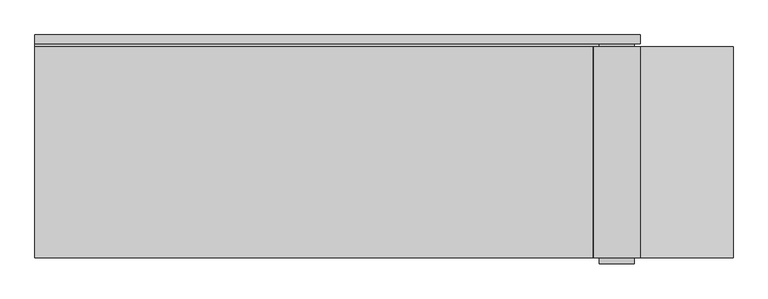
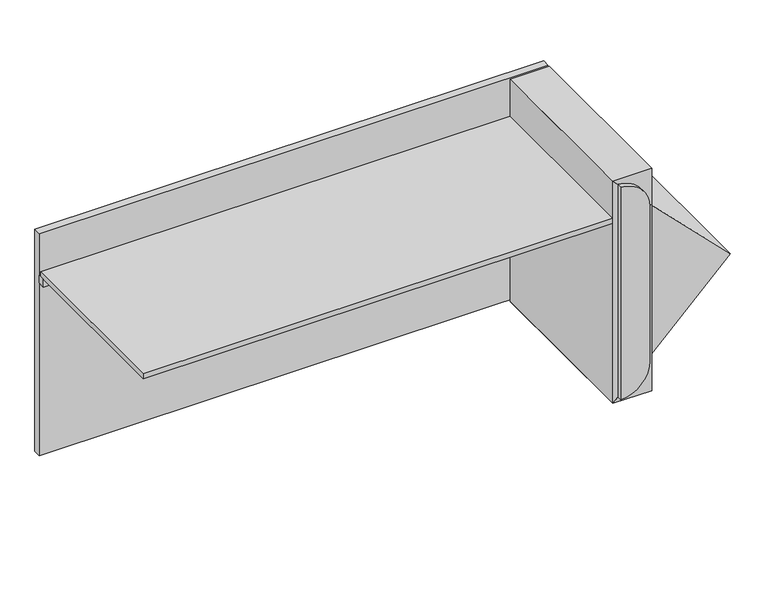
"""IFC4 building model written with IfcOpenShell, lengths in millimetres: proxy geometry, BASYS^OFFICE 7_36x78 DESK-PARTS SOLID."""

from ifc_helpers import new_model, si_unit, point, frame, frame_2d, origin, place, context, project, spatial, polyline, circle_curve, trimmed, segment, composite_curve, outline, extrude, source, transform, mapped, element, save


def generic_models_5ed4adca(model_context):
    return source(origin(), model_context, "Body", "SweptSolid", [
        extrude(outline(composite_curve([segment(polyline([(-914.4, 1828.8), (-914.4, 1981.2), (0.0, 1981.2), (0.0, 1828.8), (-19.2266619, 1848.0266619)]), True, "CONTINUOUS"), segment(trimmed(circle_curve(frame_2d((-139.7, 1841.5)), 120.65), [point((-19.2266619, 1848.0266619))], [point((-139.7, 1962.15))], True, "CARTESIAN"), True, "CONTINUOUS"), segment(polyline([(-139.7, 1962.15), (-774.7, 1962.15)]), True, "CONTINUOUS"), segment(trimmed(circle_curve(frame_2d((-774.7, 1841.5)), 120.65), [point((-774.7, 1962.15))], [point((-895.1733381, 1848.0266619))], True, "CARTESIAN"), True, "CONTINUOUS"), segment(polyline([(-895.1733381, 1848.0266619), (-914.4, 1828.8)]), True, "CONTINUOUS")], self_intersect=False)), frame((0.0, -701.675, 0.0), z_axis=(0.0, 1.0, 0.0), x_axis=(0.0, 0.0, 1.0)), (0.0, 0.0, 1.0), 692.15),
        extrude(outline(polyline([(-914.4, 1828.8), (-457.2, 2286.0), (0.0, 1828.8), (-914.4, 1828.8)])), frame((0.0, -701.675, 0.0), z_axis=(0.0, 1.0, 0.0), x_axis=(0.0, 0.0, 1.0)), (0.0, 0.0, 1.0), 692.15),
        extrude(outline(polyline([(1848.0266619, 0.0), (1848.0266619, -28.575), (0.0, -28.575), (0.0, 0.0), (1848.0266619, 0.0)])), frame((0.0, 0.0, -203.2), z_axis=(0.0, 0.0, 1.0), x_axis=(1.0, 0.0, 0.0)), (0.0, 0.0, 1.0), 31.75),
        extrude(outline(polyline([(1828.8, -9.525), (1828.8, -701.675), (0.0, -701.675), (0.0, -9.525), (1828.8, -9.525)])), frame((0.0, 0.0, -171.45), z_axis=(0.0, 0.0, 1.0), x_axis=(1.0, 0.0, 0.0)), (0.0, 0.0, 1.0), 19.05),
        extrude(outline(composite_curve([segment(polyline([(-774.7, 1962.15), (-139.7, 1962.15)]), True, "CONTINUOUS"), segment(trimmed(circle_curve(frame_2d((-139.7, 1841.5)), 120.65), [point((-139.7, 1962.15))], [point((-19.2266619, 1848.0266619))], False, "CARTESIAN"), True, "CONTINUOUS"), segment(polyline([(-19.2266619, 1848.0266619), (-895.1733381, 1848.0266619)]), True, "CONTINUOUS"), segment(trimmed(circle_curve(frame_2d((-774.7, 1841.5)), 120.65), [point((-895.1733381, 1848.0266619))], [point((-774.7, 1962.15))], False, "CARTESIAN"), True, "CONTINUOUS")], self_intersect=False)), frame((0.0, -31.75, 0.0), z_axis=(0.0, 1.0, 0.0), x_axis=(0.0, 0.0, 1.0)), (0.0, 0.0, 1.0), 31.75),
        extrude(outline(polyline([(1981.2, 0.0), (0.0, 0.0), (0.0, 28.575), (1981.2, 28.575), (1981.2, 0.0)])), frame((0.0, 0.0, -914.4), z_axis=(0.0, 0.0, 1.0), x_axis=(1.0, 0.0, 0.0)), (0.0, 0.0, 1.0), 914.4),
        extrude(outline(composite_curve([segment(polyline([(-19.2266619, 1848.0266619), (-895.1733381, 1848.0266619)]), True, "CONTINUOUS"), segment(trimmed(circle_curve(frame_2d((-774.7, 1841.5)), 120.65), [point((-895.1733381, 1848.0266619))], [point((-774.7, 1962.15))], False, "CARTESIAN"), True, "CONTINUOUS"), segment(polyline([(-774.7, 1962.15), (-139.7, 1962.15)]), True, "CONTINUOUS"), segment(trimmed(circle_curve(frame_2d((-139.7, 1841.5)), 120.65), [point((-139.7, 1962.15))], [point((-19.2266619, 1848.0266619))], False, "CARTESIAN"), True, "CONTINUOUS")], self_intersect=False)), frame((0.0, -720.725, 0.0), z_axis=(0.0, 1.0, 0.0), x_axis=(0.0, 0.0, 1.0)), (0.0, 0.0, 1.0), 38.1),
    ])


if __name__ == "__main__":
    model = new_model("IFC4")
    model_context = context("Model", 3, world=origin())
    ifc_project = project(units=[si_unit("LENGTHUNIT", "METRE", prefix="MILLI")], contexts=[model_context])
    site = spatial("IfcSite", under=ifc_project)
    building = spatial("IfcBuilding", under=site)
    placement = place(None, origin())
    generic_models_shape = generic_models_5ed4adca(model_context)
    element("IfcBuildingElementProxy", 1, Name="BASYS^OFFICE 7_36x78 DESK-PARTS SOLID", ObjectType="BASYS^OFFICE 7_36x78 DESK-PARTS SOLID", at=placement, inside=building, context=model_context, shape_type="MappedRepresentation", body=[
        mapped(generic_models_shape, transform((0.0, 0.0, 0.0), x_axis=(1.0, 0.0, 0.0), y_axis=(0.0, 1.0, 0.0), z_axis=(0.0, 0.0, 1.0))),
    ])
    save(model, "model.ifc")
